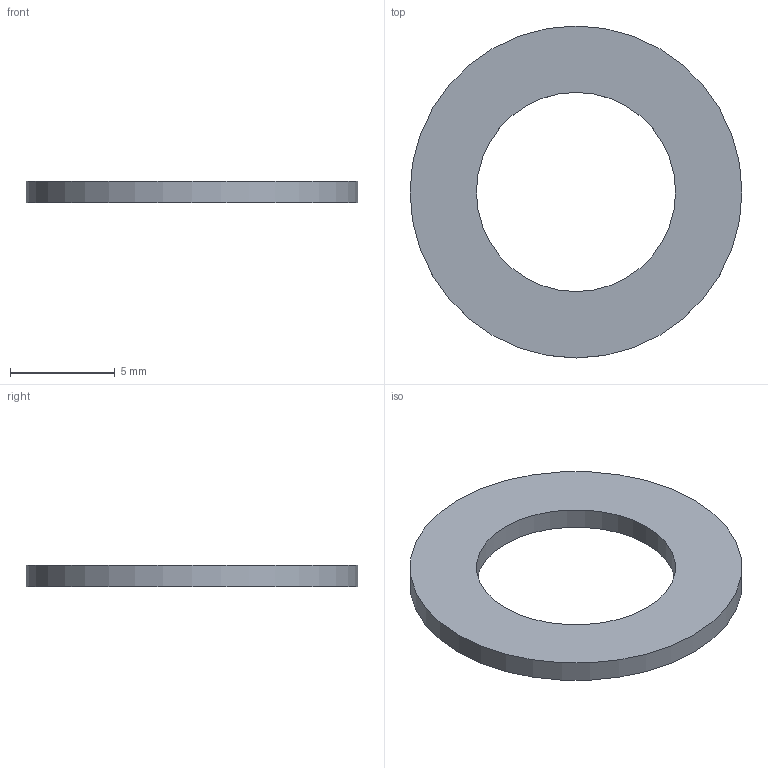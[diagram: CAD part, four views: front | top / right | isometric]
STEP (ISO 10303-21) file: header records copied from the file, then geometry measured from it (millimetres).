
FILE_DESCRIPTION(/* description */ (''),/* implementation_level */ '2;1');
FILE_NAME(/* name */ 'iglide plastic thrust washer .step',/* time_stamp */ '2022-12-29T15:56:42-08:00',/* author */ (''),/* organization */ (''),/* preprocessor_version */ 'ST-DEVELOPER v19.2',/* originating_system */ 'Autodesk Translation Framework v11.17.0.187',/* authorisation */ '');
FILE_SCHEMA (('AUTOMOTIVE_DESIGN { 1 0 10303 214 3 1 1 }'));
Length unit declared in the file: millimetre
Products named in the file (1): iglide plastic thrust washer
Bounding box: 15.88 x 15.88 x 1.02 mm (x, y, z)
Volume: 128.7 mm3; surface area: 334.4 mm2
Topology: 1 solids, 1 shells, 4 faces, 6 edges, 4 vertices
Faces by surface type: cylinder 2, plane 2
Full cylindrical faces by diameter (mm): 9.525 x1, 15.875 x1
Entity records: 138 total; most frequent: DIRECTION 20, CARTESIAN_POINT 15, ORIENTED_EDGE 12, AXIS2_PLACEMENT_3D 9, EDGE_LOOP 6, EDGE_CURVE 6, FACE_OUTER_BOUND 4, CIRCLE 4
